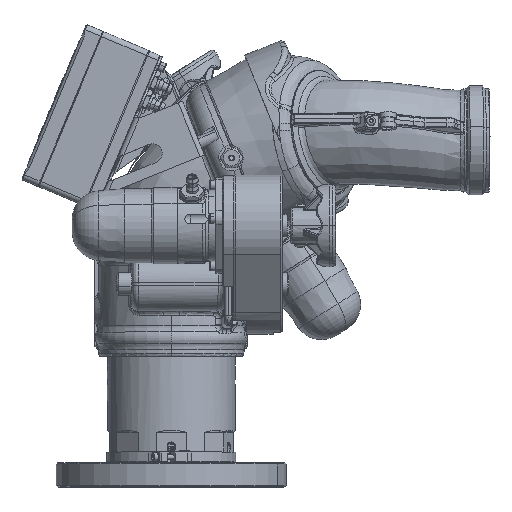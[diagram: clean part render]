
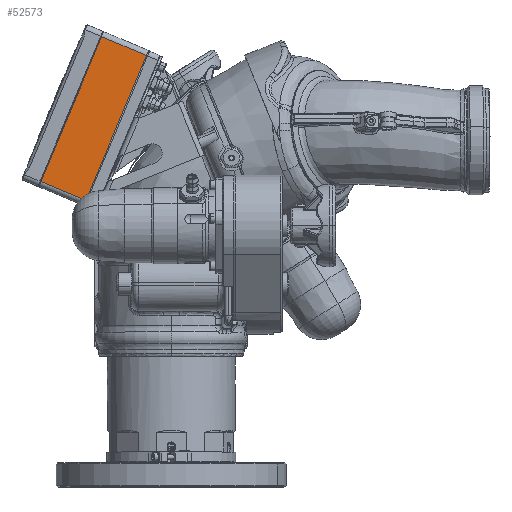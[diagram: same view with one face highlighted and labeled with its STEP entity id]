
A CAD part, top view. The second image highlights one B-rep face of the part: STEP entity #52573.
In plain terms, the highlighted planar face has unit normal (0, 0, 1).
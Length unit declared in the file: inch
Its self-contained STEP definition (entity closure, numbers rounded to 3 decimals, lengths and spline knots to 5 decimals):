
#7224 = CARTESIAN_POINT ( 'NONE',  ( -6.71575, 1.44261, 2.87143 ) ) ;
#8138 = CARTESIAN_POINT ( 'NONE',  ( -4.46277, 7.09067, 2.87143 ) ) ;
#9609 = CARTESIAN_POINT ( 'NONE',  ( -4.37051, 7.05209, 2.87143 ) ) ;
#10572 = VECTOR ( 'NONE', #21566, 39.37008 ) ;
#10918 = EDGE_CURVE ( 'NONE', #179069, #154800, #126055, .T. ) ;
#12063 = VECTOR ( 'NONE', #182560, 39.37008 ) ;
#21566 = DIRECTION ( 'NONE',  ( 0.386, 0.923, 0. ) ) ;
#26808 = VECTOR ( 'NONE', #114760, 39.37008 ) ;
#34389 = ORIENTED_EDGE ( 'NONE', *, *, #10918, .F. ) ;
#46578 = VERTEX_POINT ( 'NONE', #135526 ) ;
#46877 = ORIENTED_EDGE ( 'NONE', *, *, #185951, .F. ) ;
#49594 = CARTESIAN_POINT ( 'NONE',  ( -4.46277, 7.09067, 2.87143 ) ) ;
#52573 = ADVANCED_FACE ( 'NONE', ( #85264 ), #59886, .T. ) ;
#59886 = PLANE ( 'NONE',  #154274 ) ;
#61148 = CARTESIAN_POINT ( 'NONE',  ( -6.71575, 1.44261, 2.87143 ) ) ;
#61173 = EDGE_CURVE ( 'NONE', #179069, #93197, #72263, .T. ) ;
#65360 = ORIENTED_EDGE ( 'NONE', *, *, #185998, .T. ) ;
#72263 = LINE ( 'NONE', #8138, #10572 ) ;
#83867 = LINE ( 'NONE', #9609, #26808 ) ;
#85264 = FACE_OUTER_BOUND ( 'NONE', #172659, .T. ) ;
#88445 = LINE ( 'NONE', #182437, #122656 ) ;
#93197 = VERTEX_POINT ( 'NONE', #49594 ) ;
#99617 = CARTESIAN_POINT ( 'NONE',  ( -6.80801, 1.48119, 2.87143 ) ) ;
#103781 = DIRECTION ( 'NONE',  ( 0., 0., 1. ) ) ;
#114760 = DIRECTION ( 'NONE',  ( -0.923, 0.386, 0. ) ) ;
#122656 = VECTOR ( 'NONE', #155624, 39.37008 ) ;
#126055 = LINE ( 'NONE', #7224, #12063 ) ;
#135526 = CARTESIAN_POINT ( 'NONE',  ( -6.19728, 7.81584, 2.87143 ) ) ;
#148087 = ORIENTED_EDGE ( 'NONE', *, *, #61173, .T. ) ;
#149083 = DIRECTION ( 'NONE',  ( 0.386, 0.923, 0. ) ) ;
#154274 = AXIS2_PLACEMENT_3D ( 'NONE', #61148, #103781, #149083 ) ;
#154800 = VERTEX_POINT ( 'NONE', #160285 ) ;
#155624 = DIRECTION ( 'NONE',  ( 0.386, 0.923, 0. ) ) ;
#160285 = CARTESIAN_POINT ( 'NONE',  ( -8.54252, 2.20636, 2.87143 ) ) ;
#172659 = EDGE_LOOP ( 'NONE', ( #34389, #148087, #65360, #46877 ) ) ;
#179069 = VERTEX_POINT ( 'NONE', #99617 ) ;
#182437 = CARTESIAN_POINT ( 'NONE',  ( -8.54252, 2.20636, 2.87143 ) ) ;
#182560 = DIRECTION ( 'NONE',  ( -0.923, 0.386, 0. ) ) ;
#185951 = EDGE_CURVE ( 'NONE', #154800, #46578, #88445, .T. ) ;
#185998 = EDGE_CURVE ( 'NONE', #93197, #46578, #83867, .T. ) ;
